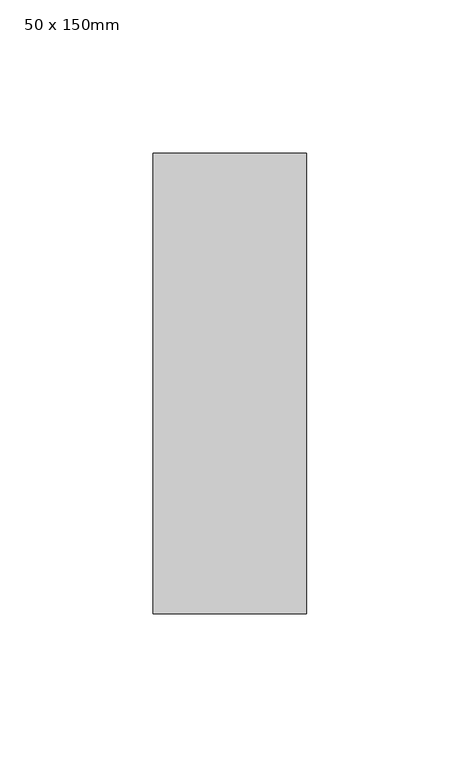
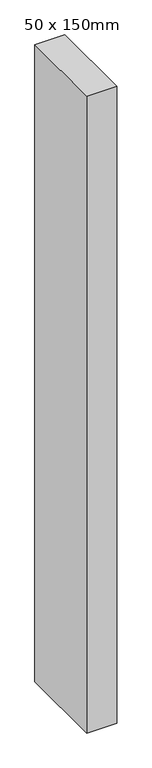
"""IFC4 building model written with IfcOpenShell, lengths in millimetres: member geometry, 矩形竖梃 : 50 x 150mm."""

import ifcopenshell
import ifcopenshell.guid

model = None  # the IFC model being written
_history = None  # IfcOwnerHistory: only IFC2X3 demands one
_inside = {}  # id of a spatial element -> (the spatial element, [elements in it])
_under = {}  # id of a project, library or spatial element -> (it, [spatial elements below it])
_declared = {}  # id of a project -> (the project, [libraries it declares])
_typed = {}  # id of a type object -> (the type object, [elements of that type])
_made_of = {}  # id of a material, layer set ... -> (it, [elements and type objects made of it])


def new_model(schema):
    """Start an empty IFC model of exactly this schema.

    Asked for "IFC4X3", IfcOpenShell would pick the latest addendum, in which some entities
    have other attributes; the version numbers below select the first issue.
    IFC2X3 requires an IfcOwnerHistory on every rooted entity: one is made here for all.
    """
    global model, _history
    if schema == "IFC4X3":
        model = ifcopenshell.file(schema_version=(4, 3, 0, 0))
    else:
        model = ifcopenshell.file(schema=schema)
    _inside.clear()
    _under.clear()
    _declared.clear()
    _typed.clear()
    _made_of.clear()
    _history = None
    if model.schema == "IFC2X3":
        org = make("IfcOrganization", Name="unknown")
        user = make(
            "IfcPersonAndOrganization",
            ThePerson=make("IfcPerson", FamilyName="unknown"),
            TheOrganization=org,
        )
        app = make(
            "IfcApplication",
            ApplicationDeveloper=org,
            Version="unknown",
            ApplicationFullName="unknown",
            ApplicationIdentifier="unknown",
        )
        _history = make(
            "IfcOwnerHistory",
            OwningUser=user,
            OwningApplication=app,
            ChangeAction="ADDED",
            CreationDate=0,
        )
    return model


def make(cls, **values):
    """One entity of the class cls with the attributes given. An attribute that is None is left unset."""
    return model.create_entity(
        cls, **{name: value for name, value in values.items() if value is not None}
    )


def rooted(cls, **values):
    """An entity with a GlobalId (a new one), such as an element, a storey or a relation."""
    return make(cls, GlobalId=ifcopenshell.guid.new(), OwnerHistory=_history, **values)


def si_unit(unit_type, name, prefix=None):
    """IfcSIUnit, for example si_unit("LENGTHUNIT", "METRE", prefix="MILLI")."""
    return make("IfcSIUnit", UnitType=unit_type, Prefix=prefix, Name=name)


def assignment(units):
    """IfcUnitAssignment: the units of a project."""
    return None if units is None else make("IfcUnitAssignment", Units=units)


def point(xyz):
    """IfcCartesianPoint."""
    return None if xyz is None else make("IfcCartesianPoint", Coordinates=xyz)


def direction(xyz):
    """IfcDirection."""
    return None if xyz is None else make("IfcDirection", DirectionRatios=xyz)


def frame(location, z_axis=None, x_axis=None):
    """IfcAxis2Placement3D, a coordinate frame: its origin and axes. An axis left out is left unset."""
    return make(
        "IfcAxis2Placement3D",
        Location=point(location),
        Axis=direction(z_axis),
        RefDirection=direction(x_axis),
    )


def origin():
    """The frame at (0, 0, 0) with its axes left unset."""
    return frame((0.0, 0.0, 0.0))


def place(relative_to, where):
    """IfcLocalPlacement: puts the frame where relative to a parent placement (None: the world)."""
    return make(
        "IfcLocalPlacement", PlacementRelTo=relative_to, RelativePlacement=where
    )


def context(
    kind, dimensions, precision=None, world=None, true_north=None, identifier=None
):
    """IfcGeometricRepresentationContext, for example the 3D "Model" context."""
    return make(
        "IfcGeometricRepresentationContext",
        ContextIdentifier=identifier,
        ContextType=kind,
        CoordinateSpaceDimension=dimensions,
        Precision=precision,
        WorldCoordinateSystem=world,
        TrueNorth=true_north,
    )


def project(units=None, contexts=None):
    """IfcProject with its units and contexts."""
    return rooted(
        "IfcProject",
        Name="project",
        RepresentationContexts=contexts,
        UnitsInContext=assignment(units),
    )


def spatial(cls, under=None, at=None, **own):
    """A site, building, storey or space (cls), placed at a placement, below another one or the project."""
    s = rooted(cls, ObjectPlacement=at, **own)
    if under is not None:
        _under.setdefault(under.id(), (under, []))[1].append(s)
    return s


def polyline(points):
    """IfcPolyline through the points."""
    return make("IfcPolyline", Points=[point(p) for p in points])


def outline(outer, holes=None, kind="AREA"):
    """IfcArbitraryClosedProfileDef: a profile drawn as a closed curve; with holes, ...WithVoids."""
    if holes is None:
        return make("IfcArbitraryClosedProfileDef", ProfileType=kind, OuterCurve=outer)
    return make(
        "IfcArbitraryProfileDefWithVoids",
        ProfileType=kind,
        OuterCurve=outer,
        InnerCurves=holes,
    )


def extrude(swept, where, along, depth):
    """IfcExtrudedAreaSolid: the profile swept, set in the frame where, extruded along a direction by depth."""
    return make(
        "IfcExtrudedAreaSolid",
        SweptArea=swept,
        Position=where,
        ExtrudedDirection=direction(along),
        Depth=depth,
    )


def shape(context_of_items, identifier, shape_type, items):
    """IfcShapeRepresentation: the items that make up one representation, for example the "Body"."""
    return make(
        "IfcShapeRepresentation",
        ContextOfItems=context_of_items,
        RepresentationIdentifier=identifier,
        RepresentationType=shape_type,
        Items=items,
    )


def source(mapping_origin, context_of_items, identifier, shape_type, items):
    """IfcRepresentationMap: a shape defined once, which mapped items show again and again."""
    return make(
        "IfcRepresentationMap",
        MappingOrigin=mapping_origin,
        MappedRepresentation=shape(context_of_items, identifier, shape_type, items),
    )


def transform(
    local_origin,
    x_axis=None,
    y_axis=None,
    z_axis=None,
    scale=None,
    scale2=None,
    scale3=None,
    uniform=True,
):
    """IfcCartesianTransformationOperator3D, or its non-uniform kind. x_axis, y_axis, z_axis: its Axis1, 2, 3."""
    if uniform:
        return make(
            "IfcCartesianTransformationOperator3D",
            Axis1=direction(x_axis),
            Axis2=direction(y_axis),
            LocalOrigin=point(local_origin),
            Scale=scale,
            Axis3=direction(z_axis),
        )
    return make(
        "IfcCartesianTransformationOperator3DnonUniform",
        Axis1=direction(x_axis),
        Axis2=direction(y_axis),
        LocalOrigin=point(local_origin),
        Scale=scale,
        Axis3=direction(z_axis),
        Scale2=scale2,
        Scale3=scale3,
    )


def mapped(mapping_source, mapping_target):
    """IfcMappedItem: shows the shape of a source again, moved by a transform."""
    return make(
        "IfcMappedItem", MappingSource=mapping_source, MappingTarget=mapping_target
    )


def made_of(thing, what):
    """Note that an element or type object is made of a material, layer set ...; save() writes the relation."""
    if what is not None:
        _made_of.setdefault(what.id(), (what, []))[1].append(thing)
    return thing


def element(
    cls,
    number,
    at=None,
    inside=None,
    cuts=None,
    type_object=None,
    material=None,
    context=None,
    identifier="Body",
    shape_type=None,
    held_by="IfcProductDefinitionShape",
    body=None,
    shapes=None,
    **own,
):
    """One element of the class cls, such as IfcWall. Its Tag is "e" and its number.

    at: its placement. inside: the storey or other place that contains it. cuts: it is an
    opening in that element (IfcRelVoidsElement). A single representation is given by context,
    identifier, shape_type and body (its items); several are given by shapes. held_by: the class
    of the entity that holds the representations. save() writes the other relations.
    """
    e = rooted(cls, Tag="e%d" % number, ObjectPlacement=at, **own)
    if body is not None:
        shapes = [shape(context, identifier, shape_type, body)]
    if shapes is not None:
        e.Representation = make(held_by, Representations=shapes)
    if inside is not None:
        _inside.setdefault(inside.id(), (inside, []))[1].append(e)
    if cuts is not None:
        rooted(
            "IfcRelVoidsElement", RelatingBuildingElement=cuts, RelatedOpeningElement=e
        )
    if type_object is not None:
        _typed.setdefault(type_object.id(), (type_object, []))[1].append(e)
    return made_of(e, material)


def aggregate(whole, parts):
    """IfcRelAggregates: a whole, such as a stair, and the parts it consists of."""
    return rooted("IfcRelAggregates", RelatingObject=whole, RelatedObjects=parts)


def save(model, path):
    """Write the relations noted so far, then the file.

    IfcRelAggregates (storeys below a building ...), IfcRelContainedInSpatialStructure (elements
    in a storey), IfcRelDefinesByType, IfcRelAssociatesMaterial and IfcRelDeclares: one each for
    every whole, place, type object, material and project.
    """
    for whole, parts in _under.values():
        aggregate(whole, parts)
    for where, things in _inside.values():
        rooted(
            "IfcRelContainedInSpatialStructure",
            RelatedElements=things,
            RelatingStructure=where,
        )
    for kind, things in _typed.values():
        rooted("IfcRelDefinesByType", RelatedObjects=things, RelatingType=kind)
    for what, things in _made_of.values():
        rooted("IfcRelAssociatesMaterial", RelatedObjects=things, RelatingMaterial=what)
    for by, libraries in _declared.values():
        rooted("IfcRelDeclares", RelatingContext=by, RelatedDefinitions=libraries)
    model.write(path)


def member_50_x_150mm_f0098caa(model_context):
    return source(origin(), model_context, "Body", "SweptSolid", [
        extrude(outline(polyline([(25.0, 75.0), (25.0, -75.0), (-25.0, -75.0), (-25.0, 75.0), (25.0, 75.0)])), frame((0.0, 0.0, -1125.0), z_axis=(0.0, 0.0, 1.0), x_axis=(1.0, 0.0, 0.0)), (0.0, 0.0, 1.0), 1125.0),
    ])


if __name__ == "__main__":
    model = new_model("IFC4")
    model_context = context("Model", 3, world=origin())
    ifc_project = project(units=[si_unit("LENGTHUNIT", "METRE", prefix="MILLI")], contexts=[model_context])
    site = spatial("IfcSite", under=ifc_project)
    building = spatial("IfcBuilding", under=site)
    placement = place(None, origin())
    member_50_x_150mm_shape = member_50_x_150mm_f0098caa(model_context)
    element("IfcMember", 1, ObjectType="矩形竖梃 : 50 x 150mm", at=placement, inside=building, context=model_context, shape_type="MappedRepresentation", body=[
        mapped(member_50_x_150mm_shape, transform((0.0, 0.0, 0.0), x_axis=(1.0, 0.0, 0.0), y_axis=(0.0, 1.0, 0.0), z_axis=(0.0, 0.0, 1.0))),
    ])
    save(model, "model.ifc")
